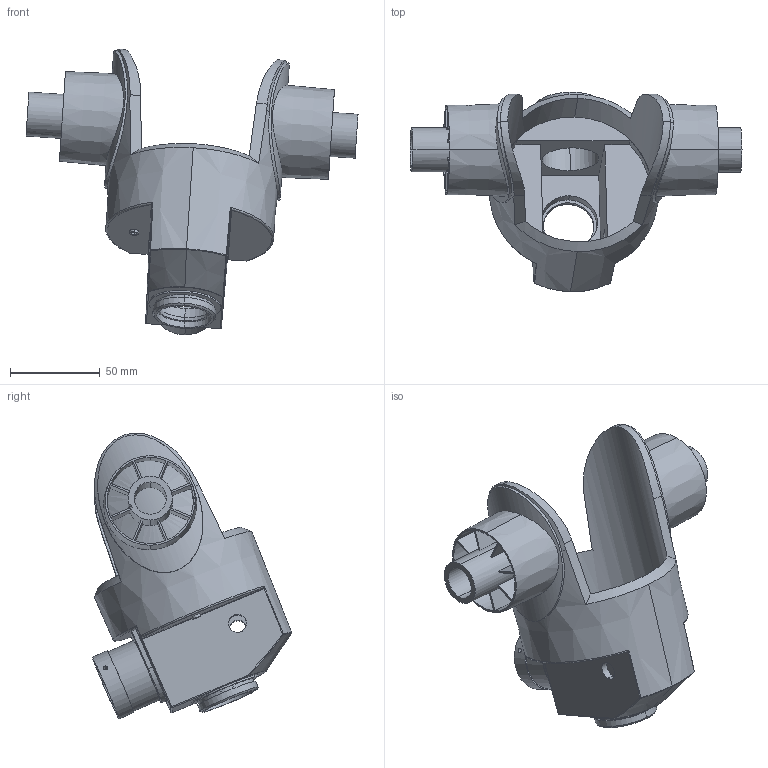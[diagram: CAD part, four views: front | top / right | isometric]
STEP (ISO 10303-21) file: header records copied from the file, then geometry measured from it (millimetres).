
FILE_DESCRIPTION (( 'STEP AP203' ), '1' );
FILE_NAME ('Objectif2_2_Défaut_sldprt.STEP', '2018-04-06T14:28:48', ( '' ), ( '' ), 'SwSTEP 2.0', 'SolidWorks 2013', '' );
FILE_SCHEMA (( 'CONFIG_CONTROL_DESIGN' ));
Length unit declared in the file: millimetre
Products named in the file (1): Objectif2_2_Défaut_sldprt
Bounding box: 184.73 x 111.01 x 159.03 mm (x, y, z)
Volume: 184234.2 mm3; surface area: 114126.1 mm2
Topology: 1 solids, 1 shells, 257 faces, 663 edges, 425 vertices
Faces by surface type: cylinder 103, plane 76, bspline 40, cone 38
Entity records: 14747 total; most frequent: CARTESIAN_POINT 8830, ORIENTED_EDGE 1322, DIRECTION 1085, EDGE_CURVE 661, VERTEX_POINT 425, AXIS2_PLACEMENT_3D 416, EDGE_LOOP 286, FACE_OUTER_BOUND 257
